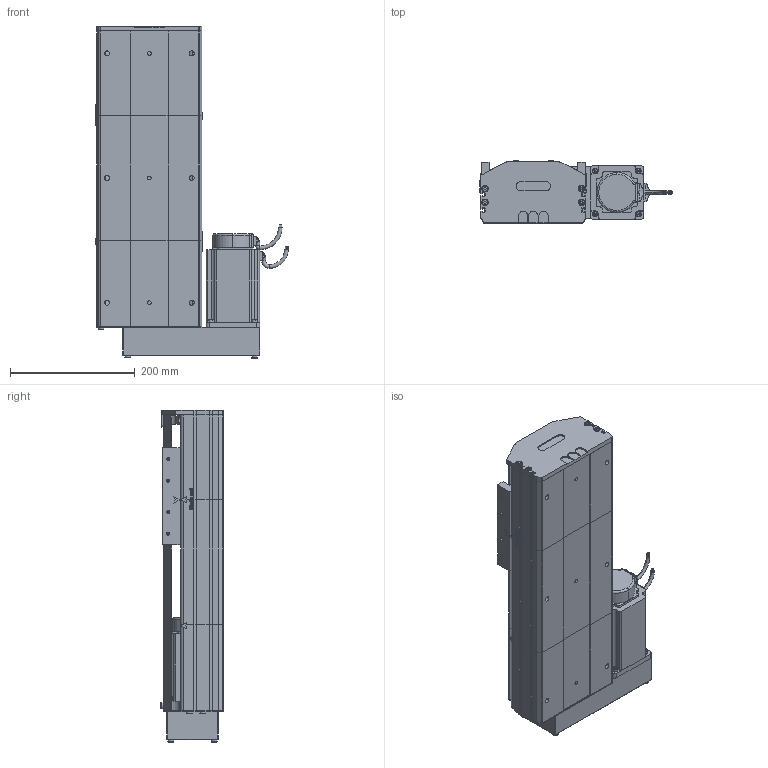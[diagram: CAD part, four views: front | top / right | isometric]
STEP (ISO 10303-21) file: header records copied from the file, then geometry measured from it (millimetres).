
FILE_DESCRIPTION (( 'STEP AP214' ), '1' );
FILE_NAME ('D17 TSH BL S200.STEP', '2010-06-29T14:36:57', ( 'Christophe Gaillard' ), ( 'SGA' ), 'SwSTEP 2.0', 'SolidWorks 2010', '' );
FILE_SCHEMA (( 'AUTOMOTIVE_DESIGN' ));
Length unit declared in the file: millimetre
Products named in the file (33): Arbre+rail head D17; Chariot D17; renvoi BL_Default; avant 90BLDC125A-640; chariot D17S_Default; Cvis M5 L70_Default; Conecteur2_Default; Vis M5 L16-2_Default; codeur 90BLDC125-640; corps 90BLDC125A-640; Moteur motionking 90BLDC125A-640; Conecteur_Default; vis M5 L5_Default; guide D17; vis M5 L12_Default; arbre + rail D17 Course 200 ; plaque de  bout BM head D17_Default; couvercle D17 head_Default; vis M5 L8 90°_Default; corpl head D17 BM_Default; head BL_Default; course 200 D17_Default; couvercle D17_Default; Arbre+rail tail D17; couvercle D17 course L200_Default; corp D17 200_Default; Tail D17_Default; vis M5 L25_Default; D17 TSH BL S200; tete d''axe haut D17; tete d''axe bas D17; plaque de  bout tail D17_Default; corpl tail D17_Default
Assembly tree (55 placements, depth 4):
  D17 TSH BL S200
    course 200 D17_Default
      corp D17 200_Default
      couvercle D17 course L200_Default
      arbre + rail D17 Course 200 
    Tail D17_Default
      couvercle D17_Default
      corpl tail D17_Default
      plaque de  bout tail D17_Default
      vis M5 L8 90°_Default  x2
      vis M5 L25_Default  x2
      vis M5 L12_Default  x4
      tete d''axe bas D17
      tete d''axe haut D17
      Arbre+rail tail D17
    chariot D17S_Default
      vis M5 L12_Default  x4
      guide D17  x2
      Chariot D17
    head BL_Default
      corpl head D17 BM_Default
      plaque de  bout BM head D17_Default
      vis M5 L12_Default  x8
      Moteur motionking 90BLDC125A-640
        avant 90BLDC125A-640
        corps 90BLDC125A-640
        codeur 90BLDC125-640
        Conecteur_Default
        Conecteur2_Default
      vis M5 L5_Default  x2
      Cvis M5 L70_Default  x2
      Vis M5 L16-2_Default  x4
      couvercle D17 head_Default
      renvoi BL_Default
      Arbre+rail head D17
Bounding box: 308.95 x 99.7 x 532.7 mm (x, y, z)
Volume: 4639834.6 mm3; surface area: 1104069.8 mm2
Topology: 80 solids, 80 shells, 2215 faces, 5523 edges, 3564 vertices
Faces by surface type: plane 1396, cylinder 542, bspline 136, torus 73, cone 64, sphere 4
Entity records: 71197 total; most frequent: CARTESIAN_POINT 22346, ORIENTED_EDGE 8554, DIRECTION 8026, EDGE_CURVE 4277, VECTOR 3006, LINE 3006, VERTEX_POINT 2810, AXIS2_PLACEMENT_3D 2510
